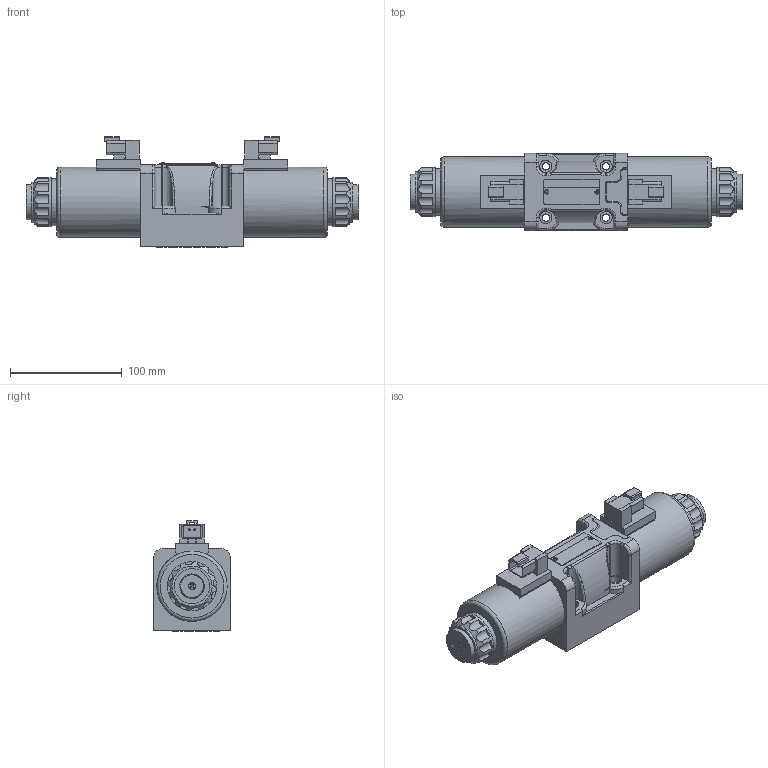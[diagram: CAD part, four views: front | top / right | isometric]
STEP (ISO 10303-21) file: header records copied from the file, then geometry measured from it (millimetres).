
FILE_DESCRIPTION(/* description */ (''),/* implementation_level */ '2;1');
FILE_NAME(/* name */ '4WE10-5XJ直流防水电磁阀（三位阀）.prt.stp',/* time_stamp */ '2022-03-30T19:34:17+08:00',/* author */ (''),/* organization */ (''),/* preprocessor_version */ 'ST-DEVELOPER v16.7',/* originating_system */ 'SIEMENS PLM Software NX 12.0',/* authorisation */ '');
FILE_SCHEMA (('AUTOMOTIVE_DESIGN { 1 0 10303 214 3 1 1 1 }'));
Length unit declared in the file: millimetre
Products named in the file (1): 4WE10-5XJ直流防水电磁阀（三位阀）
Bounding box: 297.4 x 69 x 99.3 mm (x, y, z)
Volume: 566935 mm3; surface area: 163413.5 mm2
Topology: 22 solids, 23 shells, 727 faces, 1741 edges, 1140 vertices
Faces by surface type: plane 348, cylinder 185, cone 90, bspline 74, torus 25, sphere 4, extrusion 1
Full cylindrical faces by diameter (mm): 1.8 x8, 2.5 x2, 3 x4, 5.95 x2, 6 x4, 6.5 x2, 6.6 x4, 7 x2, 11 x9, 11.6 x2, 15.7 x5, 16.5 x2, 17 x2, 21.4 x2, 22 x2, 23 x2, 28 x2, 31 x2, 31.2 x2, 31.4 x4, 31.5 x4, 33 x3, 36 x2, 42 x2, 44 x2, 53.5 x2, 58 x2, 63 x2
Entity records: 32741 total; most frequent: CARTESIAN_POINT 16043, DIRECTION 3044, ORIENTED_EDGE 2968, EDGE_CURVE 1484, AXIS2_PLACEMENT_3D 1171, VERTEX_POINT 1070, EDGE_LOOP 1007, ADVANCED_FACE 725
